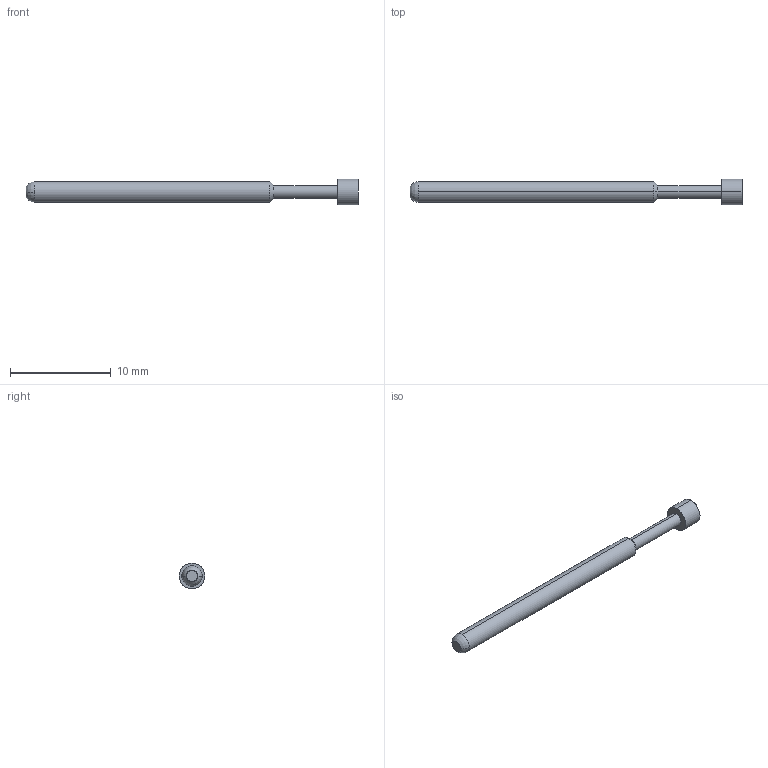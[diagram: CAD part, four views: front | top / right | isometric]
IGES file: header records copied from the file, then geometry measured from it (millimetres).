
Start section: SolidWorks IGES file using analytic representation for surfaces
Global section: file name: C:\Documents and Settings\mrumschlag\Desktop\changes\new\test\EPA-3F.IGS; native system: SolidWorks 2008; preprocessor: SolidWorks 2008; author: mrumschlag; date: 110414.162807; units: inch
Bounding box: 33.02 x 2.54 x 2.54 mm (x, y, z)
Surface area: 209.1 mm2 (no closed solid volume)
Topology: 0 solids, 0 shells, 13 faces, 140 edges, 140 vertices
Faces by surface type: revolution 10, bspline 3
